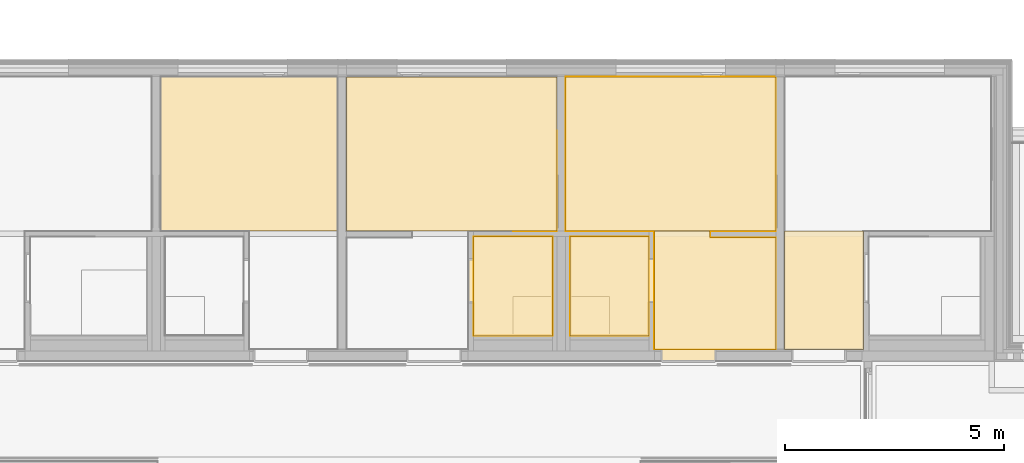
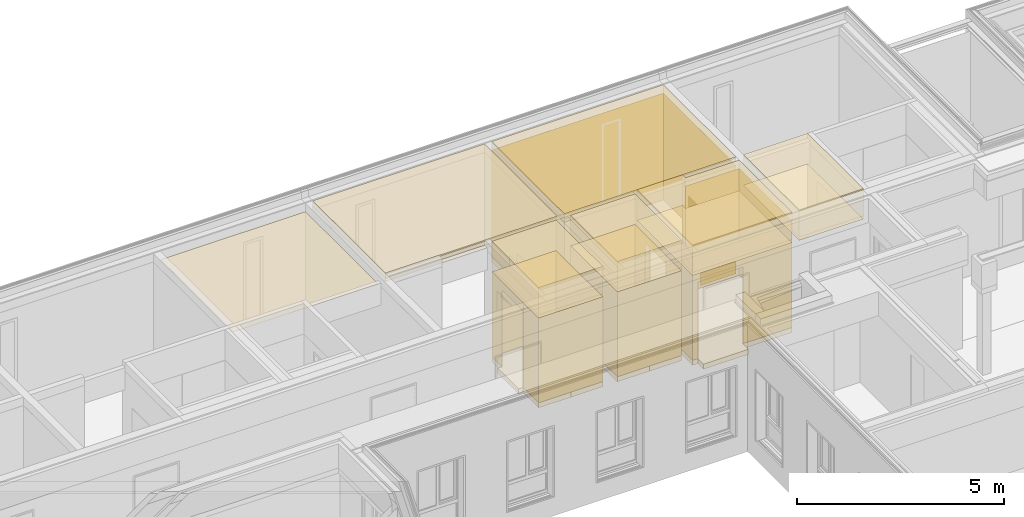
# One storey, part 178 of 222: 37 coverings.
"""IFC4 building model written with IfcOpenShell, lengths in metres."""

import ifcopenshell
import ifcopenshell.guid

model = None  # the IFC model being written
_history = None  # IfcOwnerHistory: only IFC2X3 demands one
_inside = {}  # id of a spatial element -> (the spatial element, [elements in it])
_under = {}  # id of a project, library or spatial element -> (it, [spatial elements below it])
_declared = {}  # id of a project -> (the project, [libraries it declares])
_typed = {}  # id of a type object -> (the type object, [elements of that type])
_made_of = {}  # id of a material, layer set ... -> (it, [elements and type objects made of it])


def new_model(schema):
    """Start an empty IFC model of exactly this schema.

    Asked for "IFC4X3", IfcOpenShell would pick the latest addendum, in which some entities
    have other attributes; the version numbers below select the first issue.
    IFC2X3 requires an IfcOwnerHistory on every rooted entity: one is made here for all.
    """
    global model, _history
    if schema == "IFC4X3":
        model = ifcopenshell.file(schema_version=(4, 3, 0, 0))
    else:
        model = ifcopenshell.file(schema=schema)
    _inside.clear()
    _under.clear()
    _declared.clear()
    _typed.clear()
    _made_of.clear()
    _history = None
    if model.schema == "IFC2X3":
        org = make("IfcOrganization", Name="unknown")
        user = make(
            "IfcPersonAndOrganization",
            ThePerson=make("IfcPerson", FamilyName="unknown"),
            TheOrganization=org,
        )
        app = make(
            "IfcApplication",
            ApplicationDeveloper=org,
            Version="unknown",
            ApplicationFullName="unknown",
            ApplicationIdentifier="unknown",
        )
        _history = make(
            "IfcOwnerHistory",
            OwningUser=user,
            OwningApplication=app,
            ChangeAction="ADDED",
            CreationDate=0,
        )
    return model


def make(cls, **values):
    """One entity of the class cls with the attributes given. An attribute that is None is left unset."""
    return model.create_entity(
        cls, **{name: value for name, value in values.items() if value is not None}
    )


def entity(cls, *values):
    """Any entity or typed value of the class cls, its attributes in the order of the schema. None: left unset."""
    e = model.create_entity(cls)
    for i, value in enumerate(values):
        if value is not None:
            e[i] = value
    return e


def rooted(cls, **values):
    """An entity with a GlobalId (a new one), such as an element, a storey or a relation."""
    return make(cls, GlobalId=ifcopenshell.guid.new(), OwnerHistory=_history, **values)


def si_unit(unit_type, name, prefix=None):
    """IfcSIUnit, for example si_unit("LENGTHUNIT", "METRE", prefix="MILLI")."""
    return make("IfcSIUnit", UnitType=unit_type, Prefix=prefix, Name=name)


def converted_unit(unit_type, name, factor, base, dimensions=None, offset=None):
    """IfcConversionBasedUnit, such as the inch: factor (a typed value) times the base unit."""
    return make(
        "IfcConversionBasedUnit"
        if offset is None
        else "IfcConversionBasedUnitWithOffset",
        ConversionOffset=offset,
        Dimensions=None
        if dimensions is None
        else entity("IfcDimensionalExponents", *dimensions),
        UnitType=unit_type,
        Name=name,
        ConversionFactor=make(
            "IfcMeasureWithUnit", ValueComponent=factor, UnitComponent=base
        ),
    )


def derived_unit(unit_type, elements):
    """IfcDerivedUnit: a product of units, each with its exponent."""
    return make(
        "IfcDerivedUnit",
        Elements=[
            make("IfcDerivedUnitElement", Unit=unit, Exponent=power)
            for unit, power in elements
        ],
        UnitType=unit_type,
    )


def assignment(units):
    """IfcUnitAssignment: the units of a project."""
    return None if units is None else make("IfcUnitAssignment", Units=units)


def point(xyz):
    """IfcCartesianPoint."""
    return None if xyz is None else make("IfcCartesianPoint", Coordinates=xyz)


def direction(xyz):
    """IfcDirection."""
    return None if xyz is None else make("IfcDirection", DirectionRatios=xyz)


def frame(location, z_axis=None, x_axis=None):
    """IfcAxis2Placement3D, a coordinate frame: its origin and axes. An axis left out is left unset."""
    return make(
        "IfcAxis2Placement3D",
        Location=point(location),
        Axis=direction(z_axis),
        RefDirection=direction(x_axis),
    )


def frame_2d(location, x_axis=None):
    """IfcAxis2Placement2D, a coordinate frame in the plane: its origin and x axis."""
    return make(
        "IfcAxis2Placement2D", Location=point(location), RefDirection=direction(x_axis)
    )


def origin():
    """The frame at (0, 0, 0) with its axes left unset."""
    return frame((0.0, 0.0, 0.0))


def origin_with_axes():
    """The frame at (0, 0, 0) with the z axis (0, 0, 1) and the x axis (1, 0, 0) written out."""
    return frame((0.0, 0.0, 0.0), z_axis=(0.0, 0.0, 1.0), x_axis=(1.0, 0.0, 0.0))


def place(relative_to, where):
    """IfcLocalPlacement: puts the frame where relative to a parent placement (None: the world)."""
    return make(
        "IfcLocalPlacement", PlacementRelTo=relative_to, RelativePlacement=where
    )


def context(
    kind, dimensions, precision=None, world=None, true_north=None, identifier=None
):
    """IfcGeometricRepresentationContext, for example the 3D "Model" context."""
    return make(
        "IfcGeometricRepresentationContext",
        ContextIdentifier=identifier,
        ContextType=kind,
        CoordinateSpaceDimension=dimensions,
        Precision=precision,
        WorldCoordinateSystem=world,
        TrueNorth=true_north,
    )


def subcontext(parent, identifier, kind, view, scale=None):
    """IfcGeometricRepresentationSubContext, for example "Body" below "Model"."""
    return make(
        "IfcGeometricRepresentationSubContext",
        ContextIdentifier=identifier,
        ContextType=kind,
        ParentContext=parent,
        TargetScale=scale,
        TargetView=view,
    )


def project(units=None, contexts=None):
    """IfcProject with its units and contexts."""
    return rooted(
        "IfcProject",
        Name="project",
        RepresentationContexts=contexts,
        UnitsInContext=assignment(units),
    )


def spatial(cls, under=None, at=None, **own):
    """A site, building, storey or space (cls), placed at a placement, below another one or the project."""
    s = rooted(cls, ObjectPlacement=at, **own)
    if under is not None:
        _under.setdefault(under.id(), (under, []))[1].append(s)
    return s


def polyline(points):
    """IfcPolyline through the points."""
    return make("IfcPolyline", Points=[point(p) for p in points])


def profile(cls, at=None, kind="AREA", **sizes):
    """A parametric profile (cls). Its sizes go by their IFC names, for example OverallWidth=200.0."""
    return make(cls, ProfileType=kind, Position=at, **sizes)


def rectangle(**sizes):
    """IfcRectangleProfileDef."""
    return profile("IfcRectangleProfileDef", **sizes)


def outline(outer, holes=None, kind="AREA"):
    """IfcArbitraryClosedProfileDef: a profile drawn as a closed curve; with holes, ...WithVoids."""
    if holes is None:
        return make("IfcArbitraryClosedProfileDef", ProfileType=kind, OuterCurve=outer)
    return make(
        "IfcArbitraryProfileDefWithVoids",
        ProfileType=kind,
        OuterCurve=outer,
        InnerCurves=holes,
    )


def extrude(swept, where, along, depth):
    """IfcExtrudedAreaSolid: the profile swept, set in the frame where, extruded along a direction by depth."""
    return make(
        "IfcExtrudedAreaSolid",
        SweptArea=swept,
        Position=where,
        ExtrudedDirection=direction(along),
        Depth=depth,
    )


def shape(context_of_items, identifier, shape_type, items):
    """IfcShapeRepresentation: the items that make up one representation, for example the "Body"."""
    return make(
        "IfcShapeRepresentation",
        ContextOfItems=context_of_items,
        RepresentationIdentifier=identifier,
        RepresentationType=shape_type,
        Items=items,
    )


def material(Name=None, Category=None):
    """IfcMaterial."""
    return make("IfcMaterial", Name=Name, Category=Category)


def layer(
    of_material, thickness, ventilated=None, Name=None, Category=None, Priority=None
):
    """IfcMaterialLayer: one layer of a wall or slab, of a material (None: an air gap)."""
    return make(
        "IfcMaterialLayer",
        Material=of_material,
        LayerThickness=thickness,
        IsVentilated=ventilated,
        Name=Name,
        Category=Category,
        Priority=Priority,
    )


def layer_set(layers, Name=None):
    """IfcMaterialLayerSet."""
    return make("IfcMaterialLayerSet", MaterialLayers=layers, LayerSetName=Name)


def layer_usage(for_layer_set, set_direction, sense, offset, extent=None):
    """IfcMaterialLayerSetUsage: how a layer set lies in its element."""
    return make(
        "IfcMaterialLayerSetUsage",
        ForLayerSet=for_layer_set,
        LayerSetDirection=set_direction,
        DirectionSense=sense,
        OffsetFromReferenceLine=offset,
        ReferenceExtent=extent,
    )


def made_of(thing, what):
    """Note that an element or type object is made of a material, layer set ...; save() writes the relation."""
    if what is not None:
        _made_of.setdefault(what.id(), (what, []))[1].append(thing)
    return thing


def element(
    cls,
    number,
    at=None,
    inside=None,
    cuts=None,
    type_object=None,
    material=None,
    context=None,
    identifier="Body",
    shape_type=None,
    held_by="IfcProductDefinitionShape",
    body=None,
    shapes=None,
    **own,
):
    """One element of the class cls, such as IfcWall. Its Tag is "e" and its number.

    at: its placement. inside: the storey or other place that contains it. cuts: it is an
    opening in that element (IfcRelVoidsElement). A single representation is given by context,
    identifier, shape_type and body (its items); several are given by shapes. held_by: the class
    of the entity that holds the representations. save() writes the other relations.
    """
    e = rooted(cls, Tag="e%d" % number, ObjectPlacement=at, **own)
    if body is not None:
        shapes = [shape(context, identifier, shape_type, body)]
    if shapes is not None:
        e.Representation = make(held_by, Representations=shapes)
    if inside is not None:
        _inside.setdefault(inside.id(), (inside, []))[1].append(e)
    if cuts is not None:
        rooted(
            "IfcRelVoidsElement", RelatingBuildingElement=cuts, RelatedOpeningElement=e
        )
    if type_object is not None:
        _typed.setdefault(type_object.id(), (type_object, []))[1].append(e)
    return made_of(e, material)


def aggregate(whole, parts):
    """IfcRelAggregates: a whole, such as a stair, and the parts it consists of."""
    return rooted("IfcRelAggregates", RelatingObject=whole, RelatedObjects=parts)


def save(model, path):
    """Write the relations noted so far, then the file.

    IfcRelAggregates (storeys below a building ...), IfcRelContainedInSpatialStructure (elements
    in a storey), IfcRelDefinesByType, IfcRelAssociatesMaterial and IfcRelDeclares: one each for
    every whole, place, type object, material and project.
    """
    for whole, parts in _under.values():
        aggregate(whole, parts)
    for where, things in _inside.values():
        rooted(
            "IfcRelContainedInSpatialStructure",
            RelatedElements=things,
            RelatingStructure=where,
        )
    for kind, things in _typed.values():
        rooted("IfcRelDefinesByType", RelatedObjects=things, RelatingType=kind)
    for what, things in _made_of.values():
        rooted("IfcRelAssociatesMaterial", RelatedObjects=things, RelatingMaterial=what)
    for by, libraries in _declared.values():
        rooted("IfcRelDeclares", RelatingContext=by, RelatedDefinitions=libraries)
    model.write(path)


model = new_model("IFC4")

# Units and contexts
model_context = context("Model", 3, precision=1e-05, world=origin())
body_context = subcontext(model_context, "Body", "Model", "MODEL_VIEW")
ifc_project = project(units=[si_unit("LENGTHUNIT", "METRE"), si_unit("AREAUNIT", "SQUARE_METRE"), si_unit("VOLUMEUNIT", "CUBIC_METRE"), si_unit("MASSUNIT", "GRAM", prefix="KILO"), converted_unit("PLANEANGLEUNIT", "DEGREE", entity("IfcPlaneAngleMeasure", 0.0174532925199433), si_unit("PLANEANGLEUNIT", "RADIAN"), dimensions=[0, 0, 0, 0, 0, 0, 0]), derived_unit("THERMALTRANSMITTANCEUNIT", [(si_unit("POWERUNIT", "WATT"), 1), (si_unit("THERMODYNAMICTEMPERATUREUNIT", "KELVIN"), -1), (si_unit("LENGTHUNIT", "METRE"), -2)]), derived_unit("VOLUMETRICFLOWRATEUNIT", [(si_unit("LENGTHUNIT", "METRE"), 3), (converted_unit("TIMEUNIT", "hour", entity("IfcTimeMeasure", 3600.0), si_unit("TIMEUNIT", "SECOND"), dimensions=[0, 0, 1, 0, 0, 0, 0]), -1), (si_unit("LENGTHUNIT", "METRE"), -1)])], contexts=[model_context])

# Site, building, storey, space
site_placement = place(None, origin())
site = spatial("IfcSite", under=ifc_project, at=site_placement, Name="Psychiatrie Neubau Wunstorf", CompositionType="ELEMENT")
building_placement = place(site_placement, origin())
building = spatial("IfcBuilding", under=site, at=building_placement, Name="Neubau H2 Stationsgebäude", CompositionType="ELEMENT")
storey_placement = place(building_placement, frame((0.0, 0.0, 3.6)))
storey = spatial("IfcBuildingStorey", under=building, at=storey_placement, Name="H2 Ebene +1", CompositionType="ELEMENT", Elevation=3.6)
space_1_placement = place(storey_placement, frame((30.1, 24.3895, 0.0)))
space_1 = spatial("IfcSpace", under=storey, at=space_1_placement, Name="WUN-H2-E01-047", CompositionType="ELEMENT")

# Coverings
ifc_material_1 = material()
ifc_layer_1 = layer(ifc_material_1, 0.036)
ifc_layer_set_1 = layer_set([ifc_layer_1])
ifc_layer_usage_1 = layer_usage(ifc_layer_set_1, "AXIS3", "POSITIVE", 0.0)
covering_1_placement = place(space_1_placement, frame((0.0, 0.0, 3.55)))
element("IfcCovering", 1, at=covering_1_placement, inside=space_1, material=ifc_layer_usage_1, Name="Gipsfaserplatten 2-lagig (BSK)", PredefinedType="CEILING", context=body_context, shape_type="SweptSolid", body=[
    extrude(rectangle(XDim=1.798, YDim=2.70000000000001, at=frame_2d((0.899000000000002, 1.35), x_axis=(1.0, 0.0))), frame((0.0, 2.70000000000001, 0.0), z_axis=(0.0, 0.0, -1.0), x_axis=(1.0, 0.0, 0.0)), (0.0, 0.0, 1.0), 0.036),
])
ifc_material_2 = material(Name="Installationshöhe")
ifc_layer_2 = layer(ifc_material_2, 0.764)
ifc_layer_set_2 = layer_set([ifc_layer_2])
ifc_layer_usage_2 = layer_usage(ifc_layer_set_2, "AXIS3", "POSITIVE", 0.0)
covering_2_placement = place(space_1_placement, frame((0.0, 0.0, 3.514)))
element("IfcCovering", 2, at=covering_2_placement, inside=space_1, material=ifc_layer_usage_2, Name="Gipsfaserplatten 2-lagig (BSK)", PredefinedType="CEILING", context=body_context, shape_type="SweptSolid", body=[
    extrude(rectangle(XDim=1.798, YDim=2.70000000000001, at=frame_2d((0.899000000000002, 1.35), x_axis=(1.0, 0.0))), frame((0.0, 2.70000000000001, 0.0), z_axis=(0.0, 0.0, -1.0), x_axis=(1.0, 0.0, 0.0)), (0.0, 0.0, 1.0), 0.764),
])
ifc_material_3 = material(Name="A1")
ifc_layer_3 = layer(ifc_material_3, 0.1)
ifc_layer_set_3 = layer_set([ifc_layer_3])
ifc_layer_usage_3 = layer_usage(ifc_layer_set_3, "AXIS3", "POSITIVE", 0.0)
covering_3_placement = place(space_1_placement, frame((0.0, 0.0, 2.75)))
element("IfcCovering", 3, at=covering_3_placement, inside=space_1, material=ifc_layer_usage_3, Name="Gipsfaserplatten 2-lagig (BSK)", PredefinedType="CEILING", context=body_context, shape_type="SweptSolid", body=[
    extrude(rectangle(XDim=1.798, YDim=2.70000000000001, at=frame_2d((0.899000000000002, 1.35), x_axis=(1.0, 0.0))), frame((0.0, 2.70000000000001, 0.0), z_axis=(0.0, 0.0, -1.0), x_axis=(1.0, 0.0, 0.0)), (0.0, 0.0, 1.0), 0.1),
])
ifc_material_4 = material(Name="D1")
ifc_layer_4 = layer(ifc_material_4, 0.001)
ifc_layer_set_4 = layer_set([ifc_layer_4])
ifc_layer_usage_4 = layer_usage(ifc_layer_set_4, "AXIS3", "POSITIVE", 0.0)
covering_4_placement = place(space_1_placement, frame((0.0, 0.0, 2.65)))
element("IfcCovering", 4, at=covering_4_placement, inside=space_1, material=ifc_layer_usage_4, Name="Gipsfaserplatten 2-lagig (BSK)", PredefinedType="CEILING", context=body_context, shape_type="SweptSolid", body=[
    extrude(rectangle(XDim=1.798, YDim=2.70000000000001, at=frame_2d((0.899000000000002, 1.35), x_axis=(1.0, 0.0))), frame((0.0, 2.70000000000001, 0.0), z_axis=(0.0, 0.0, -1.0), x_axis=(1.0, 0.0, 0.0)), (0.0, 0.0, 1.0), 0.001),
])

# Space
space_2_placement = place(storey_placement, frame((25.1, 24.3895, 0.0)))
space_2 = spatial("IfcSpace", under=storey, at=space_2_placement, Name="WUN-H2-E01-046", CompositionType="ELEMENT")

# Coverings
ifc_material_5 = material(Name="84")
ifc_layer_5 = layer(ifc_material_5, 0.001)
ifc_layer_set_5 = layer_set([ifc_layer_5])
ifc_layer_usage_5 = layer_usage(ifc_layer_set_5, "AXIS3", "POSITIVE", 0.0)
covering_5_placement = place(space_2_placement, frame((0.0, 2.70000000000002, 0.1)))
element("IfcCovering", 5, at=covering_5_placement, inside=space_2, material=ifc_layer_usage_5, Name="Acrovyn", PredefinedType="CLADDING", context=body_context, shape_type="SweptSolid", body=[
    extrude(rectangle(XDim=0.9, YDim=1.0, at=frame_2d((-0.5, -0.45), x_axis=(0.0, -1.0))), frame((1.0, 0.0, 0.0), z_axis=(0.0, 1.0, 0.0), x_axis=(1.0, 0.0, 0.0)), (0.0, 0.0, 1.0), 0.001),
    extrude(rectangle(XDim=0.9, YDim=2.29650366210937, at=frame_2d((-1.14825183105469, -0.45), x_axis=(0.0, -1.0))), frame((0.0, 0.0, 0.0), z_axis=(1.0, 9.50482823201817e-15, 0.0), x_axis=(9.50482823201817e-15, -1.0, 0.0)), (0.0, 0.0, 1.0), 0.001),
])
ifc_material_6 = material(Name="84")
ifc_layer_6 = layer(ifc_material_6, 0.001)
ifc_layer_set_6 = layer_set([ifc_layer_6])
ifc_layer_usage_6 = layer_usage(ifc_layer_set_6, "AXIS3", "POSITIVE", 0.0)
covering_6_placement = place(space_2_placement, frame((3.80000000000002, 2.70000000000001, 0.1)))
element("IfcCovering", 6, at=covering_6_placement, inside=space_2, material=ifc_layer_usage_6, Name="Acrovyn", PredefinedType="CLADDING", context=body_context, shape_type="SweptSolid", body=[
    extrude(rectangle(XDim=1.0, YDim=0.9, at=frame_2d((0.5, -0.45), x_axis=(1.0, 0.0))), frame((0.0, 0.0, 0.0), z_axis=(0.0, 1.0, 0.0), x_axis=(1.0, 0.0, 0.0)), (0.0, 0.0, 1.0), 0.001),
    extrude(rectangle(XDim=2.29650366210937, YDim=0.9, at=frame_2d((1.14825183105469, -0.45), x_axis=(1.0, 0.0))), frame((1.0, 0.0, 0.0), z_axis=(-1.0, -9.50482823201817e-15, 0.0), x_axis=(-9.50482823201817e-15, 1.0, 0.0)), (0.0, 0.0, 1.0), 0.001),
])
ifc_material_7 = material()
ifc_layer_7 = layer(ifc_material_7, 0.036)
ifc_layer_set_7 = layer_set([ifc_layer_7])
ifc_layer_usage_7 = layer_usage(ifc_layer_set_7, "AXIS3", "POSITIVE", 0.0)
covering_7_placement = place(space_2_placement, frame((2.02500000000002, 0.0, 3.55)))
element("IfcCovering", 7, at=covering_7_placement, inside=space_2, material=ifc_layer_usage_7, Name="Gipsfaserplatten 2-lagig (BSK)", PredefinedType="CEILING", context=body_context, shape_type="SweptSolid", body=[
    extrude(outline(polyline([(0.0, 0.0), (1.27499999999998, 0.0), (1.27499999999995, 0.150000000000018), (2.77499999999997, 0.150000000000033), (2.77499999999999, 2.70000000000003), (0.0, 2.70000000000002), (0.0, 0.0)])), frame((0.0, 2.70000000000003, 0.0), z_axis=(0.0, 0.0, -1.0), x_axis=(1.0, 0.0, 0.0)), (0.0, 0.0, 1.0), 0.036),
])
ifc_material_8 = material(Name="Installationshöhe")
ifc_layer_8 = layer(ifc_material_8, 0.764)
ifc_layer_set_8 = layer_set([ifc_layer_8])
ifc_layer_usage_8 = layer_usage(ifc_layer_set_8, "AXIS3", "POSITIVE", 0.0)
covering_8_placement = place(space_2_placement, frame((2.02500000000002, 0.0, 3.514)))
element("IfcCovering", 8, at=covering_8_placement, inside=space_2, material=ifc_layer_usage_8, Name="Gipsfaserplatten 2-lagig (BSK)", PredefinedType="CEILING", context=body_context, shape_type="SweptSolid", body=[
    extrude(outline(polyline([(0.0, 0.0), (1.27499999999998, 0.0), (1.27499999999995, 0.150000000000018), (2.77499999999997, 0.150000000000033), (2.77499999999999, 2.70000000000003), (0.0, 2.70000000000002), (0.0, 0.0)])), frame((0.0, 2.70000000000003, 0.0), z_axis=(0.0, 0.0, -1.0), x_axis=(1.0, 0.0, 0.0)), (0.0, 0.0, 1.0), 0.764),
])
ifc_material_9 = material(Name="A1")
ifc_layer_9 = layer(ifc_material_9, 0.1)
ifc_layer_set_9 = layer_set([ifc_layer_9])
ifc_layer_usage_9 = layer_usage(ifc_layer_set_9, "AXIS3", "POSITIVE", 0.0)
covering_9_placement = place(space_2_placement, frame((2.02500000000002, 0.0, 2.75)))
element("IfcCovering", 9, at=covering_9_placement, inside=space_2, material=ifc_layer_usage_9, Name="Gipsfaserplatten 2-lagig (BSK)", PredefinedType="CEILING", context=body_context, shape_type="SweptSolid", body=[
    extrude(outline(polyline([(0.0, 0.0), (1.27499999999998, 0.0), (1.27499999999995, 0.150000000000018), (2.77499999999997, 0.150000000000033), (2.77499999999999, 2.70000000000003), (0.0, 2.70000000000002), (0.0, 0.0)])), frame((0.0, 2.70000000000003, 0.0), z_axis=(0.0, 0.0, -1.0), x_axis=(1.0, 0.0, 0.0)), (0.0, 0.0, 1.0), 0.1),
])
ifc_material_10 = material(Name="D1")
ifc_layer_10 = layer(ifc_material_10, 0.001)
ifc_layer_set_10 = layer_set([ifc_layer_10])
ifc_layer_usage_10 = layer_usage(ifc_layer_set_10, "AXIS3", "POSITIVE", 0.0)
covering_10_placement = place(space_2_placement, frame((2.02500000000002, 0.0, 2.65)))
element("IfcCovering", 10, at=covering_10_placement, inside=space_2, material=ifc_layer_usage_10, Name="Gipsfaserplatten 2-lagig (BSK)", PredefinedType="CEILING", context=body_context, shape_type="SweptSolid", body=[
    extrude(outline(polyline([(0.0, 0.0), (1.27499999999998, 0.0), (1.27499999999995, 0.150000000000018), (2.77499999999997, 0.150000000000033), (2.77499999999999, 2.70000000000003), (0.0, 2.70000000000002), (0.0, 0.0)])), frame((0.0, 2.70000000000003, 0.0), z_axis=(0.0, 0.0, -1.0), x_axis=(1.0, 0.0, 0.0)), (0.0, 0.0, 1.0), 0.001),
])
ifc_material_11 = material(Name="Ku1")
ifc_layer_11 = layer(ifc_material_11, 0.15)
ifc_layer_set_11 = layer_set([ifc_layer_11])
ifc_layer_usage_11 = layer_usage(ifc_layer_set_11, "AXIS3", "POSITIVE", 0.0)
covering_11_placement = place(space_2_placement, frame((0.0, -0.271999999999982, 0.0)))
element("IfcCovering", 11, at=covering_11_placement, inside=space_2, material=ifc_layer_usage_11, Name="PVC Bahnenware Holzoptik", PredefinedType="FLOORING", context=body_context, shape_type="SweptSolid", body=[
    extrude(rectangle(XDim=0.271999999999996, YDim=1.26, at=frame_2d((0.63, -0.135999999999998), x_axis=(0.0, -1.0))), frame((2.17500000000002, 0.271999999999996, 0.0), z_axis=(0.0, 0.0, 1.0), x_axis=(1.0, 0.0, 0.0)), (0.0, 0.0, 1.0), 0.15),
    extrude(outline(polyline([(2.02500000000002, 2.70000000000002), (2.02500000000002, 0.0), (4.80000000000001, 0.0), (4.79999999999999, 2.55), (3.29999999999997, 2.55000000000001), (3.3, 2.70000000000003), (4.80000000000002, 2.70000000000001), (4.79999999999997, 6.22100366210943), (0.0, 6.22100366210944), (0.0, 2.70000000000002), (2.02500000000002, 2.70000000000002)])), frame((0.0, 0.271999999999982, 0.0), z_axis=(0.0, 0.0, 1.0), x_axis=(1.0, 0.0, 0.0)), (0.0, 0.0, 1.0), 0.15),
])
ifc_material_12 = material()
ifc_layer_12 = layer(ifc_material_12, 0.036)
ifc_layer_set_12 = layer_set([ifc_layer_12])
ifc_layer_usage_12 = layer_usage(ifc_layer_set_12, "AXIS3", "POSITIVE", 0.0)
covering_12_placement = place(space_2_placement, frame((0.0, 2.70000000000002, 3.55)))
element("IfcCovering", 12, at=covering_12_placement, inside=space_2, material=ifc_layer_usage_12, Name="Gipsfaserplatten 2-lagig (BSK)", PredefinedType="CEILING", context=body_context, shape_type="SweptSolid", body=[
    extrude(rectangle(XDim=3.52100366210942, YDim=4.79999999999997, at=frame_2d((2.39999999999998, -1.7605018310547), x_axis=(-5.16611051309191e-15, -1.0))), frame((0.0, 0.0, 0.0), z_axis=(0.0, 0.0, -1.0), x_axis=(1.0, 0.0, 0.0)), (0.0, 0.0, 1.0), 0.036),
])
ifc_material_13 = material(Name="Installationshöhe")
ifc_layer_13 = layer(ifc_material_13, 0.114)
ifc_layer_set_13 = layer_set([ifc_layer_13])
ifc_layer_usage_13 = layer_usage(ifc_layer_set_13, "AXIS3", "POSITIVE", 0.0)
covering_13_placement = place(space_2_placement, frame((0.0, 2.70000000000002, 3.514)))
element("IfcCovering", 13, at=covering_13_placement, inside=space_2, material=ifc_layer_usage_13, Name="Gipsfaserplatten 2-lagig (BSK)", PredefinedType="CEILING", context=body_context, shape_type="SweptSolid", body=[
    extrude(rectangle(XDim=3.52100366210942, YDim=4.79999999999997, at=frame_2d((2.39999999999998, -1.7605018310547), x_axis=(-5.16611051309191e-15, -1.0))), frame((0.0, 0.0, 0.0), z_axis=(0.0, 0.0, -1.0), x_axis=(1.0, 0.0, 0.0)), (0.0, 0.0, 1.0), 0.114),
])
ifc_material_14 = material(Name="A1")
ifc_layer_14 = layer(ifc_material_14, 0.1)
ifc_layer_set_14 = layer_set([ifc_layer_14])
ifc_layer_usage_14 = layer_usage(ifc_layer_set_14, "AXIS3", "POSITIVE", 0.0)
covering_14_placement = place(space_2_placement, frame((0.0, 2.70000000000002, 3.4)))
element("IfcCovering", 14, at=covering_14_placement, inside=space_2, material=ifc_layer_usage_14, Name="Gipsfaserplatten 2-lagig (BSK)", PredefinedType="CEILING", context=body_context, shape_type="SweptSolid", body=[
    extrude(rectangle(XDim=3.52100366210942, YDim=4.79999999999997, at=frame_2d((2.39999999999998, -1.7605018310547), x_axis=(-5.16611051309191e-15, -1.0))), frame((0.0, 0.0, 0.0), z_axis=(0.0, 0.0, -1.0), x_axis=(1.0, 0.0, 0.0)), (0.0, 0.0, 1.0), 0.1),
])
ifc_material_15 = material(Name="49")
ifc_layer_15 = layer(ifc_material_15, 0.001)
ifc_layer_set_15 = layer_set([ifc_layer_15])
ifc_layer_usage_15 = layer_usage(ifc_layer_set_15, "AXIS3", "POSITIVE", 0.0)
covering_15_placement = place(space_2_placement, frame((0.0, 0.0, 0.15)))
element("IfcCovering", 15, at=covering_15_placement, inside=space_2, material=ifc_layer_usage_15, PredefinedType="CLADDING", context=body_context, shape_type="SweptSolid", body=[
    extrude(outline(polyline([(0.0, 3.15), (1.22450000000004, 3.15), (1.22450000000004, 2.3), (3.52100366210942, 2.3), (3.52100366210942, 0.0), (0.0, 0.0), (0.0, 3.15)])), frame((0.0, 6.22100366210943, 3.15), z_axis=(1.0, 5.36477434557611e-15, -1.17938351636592e-15), x_axis=(5.36477434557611e-15, -1.0, 0.0)), (0.0, 0.0, 1.0), 0.001),
    extrude(outline(polyline([(1.0, 3.15), (2.025, 3.15), (2.025, 0.0), (0.0, 0.0), (0.0, 2.3), (1.0, 2.3), (1.0, 3.15)])), frame((0.0, 2.70000000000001, 3.15), z_axis=(0.0, 1.0, 0.0), x_axis=(1.0, 0.0, 0.0)), (0.0, 0.0, 1.0), 0.001),
    extrude(outline(polyline([(0.0, 3.15), (0.625000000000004, 3.15), (0.625000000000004, 0.89), (1.635, 0.89), (1.635, 3.15), (2.70000000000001, 3.15), (2.70000000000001, 0.0), (0.0, 0.0), (0.0, 3.15)])), frame((2.02500000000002, 2.70000000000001, 3.15), z_axis=(1.0, 0.0, 0.0), x_axis=(0.0, -1.0, 0.0)), (0.0, 0.0, 1.0), 0.001),
    extrude(outline(polyline([(0.0, 3.15), (0.15, 3.15), (0.15, 0.89), (1.41, 0.89), (1.41, 3.15), (2.77499999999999, 3.15), (2.77499999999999, 0.0), (0.0, 0.0), (0.0, 3.15)])), frame((2.02500000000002, 0.0, 3.15), z_axis=(2.23677159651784e-15, 1.0, -7.79787712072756e-16), x_axis=(1.0, -2.23677159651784e-15, 0.0)), (0.0, 0.0, 1.0), 0.001),
    extrude(rectangle(XDim=2.55, YDim=3.15, at=frame_2d((1.275, -1.575), x_axis=(1.0, 0.0))), frame((4.80000000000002, 0.0, 0.0), z_axis=(-1.0, -9.9866084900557e-15, 0.0), x_axis=(-9.9866084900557e-15, 1.0, 0.0)), (0.0, 0.0, 1.0), 0.001),
    extrude(rectangle(XDim=1.50000000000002, YDim=3.15, at=frame_2d((0.750000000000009, -1.575), x_axis=(1.0, 0.0))), frame((4.79999999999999, 2.54999999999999, 0.0), z_axis=(-9.70127681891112e-15, -1.0, 0.0), x_axis=(-1.0, 9.70127681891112e-15, 0.0)), (0.0, 0.0, 1.0), 0.001),
    extrude(rectangle(XDim=0.150000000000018, YDim=3.15, at=frame_2d((0.0750000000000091, -1.575), x_axis=(1.0, 0.0))), frame((3.29999999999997, 2.55, 0.0), z_axis=(-1.0, 2.18278728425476e-13, 0.0), x_axis=(2.18278728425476e-13, 1.0, 0.0)), (0.0, 0.0, 1.0), 0.001),
    extrude(outline(polyline([(0.0, 3.15), (0.500000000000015, 3.15), (0.500000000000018, 2.3), (1.50000000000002, 2.3), (1.50000000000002, 0.0), (0.0, 0.0), (0.0, 3.15)])), frame((3.3, 2.70000000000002, 3.15), z_axis=(7.35143435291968e-15, 1.0, -1.66048825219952e-15), x_axis=(1.0, -7.35143435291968e-15, 0.0)), (0.0, 0.0, 1.0), 0.001),
    extrude(outline(polyline([(2.29650366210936, 3.15), (3.52100366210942, 3.15), (3.52100366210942, 0.0), (0.0, 0.0), (0.0, 2.3), (2.29650366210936, 2.3), (2.29650366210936, 3.15)])), frame((4.80000000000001, 2.70000000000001, 3.15), z_axis=(-1.0, -1.1663809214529e-14, -1.18374593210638e-16), x_axis=(-1.1663809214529e-14, 1.0, 0.0)), (0.0, 0.0, 1.0), 0.001),
    extrude(rectangle(XDim=4.79999999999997, YDim=3.15, at=frame_2d((2.39999999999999, -1.575), x_axis=(1.0, 0.0))), frame((4.79999999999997, 6.22100366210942, 0.0), z_axis=(-1.51582450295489e-15, -1.0, 0.0), x_axis=(-1.0, 1.51582450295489e-15, 0.0)), (0.0, 0.0, 1.0), 0.001),
])

# Space
space_3_placement = place(storey_placement, frame((20.1, 24.3895, 0.0)))
space_3 = spatial("IfcSpace", under=storey, at=space_3_placement, Name="WUN-H2-E01-045", CompositionType="ELEMENT")

# Coverings
ifc_material_16 = material(Name="84")
ifc_layer_16 = layer(ifc_material_16, 0.001)
ifc_layer_set_16 = layer_set([ifc_layer_16])
ifc_layer_usage_16 = layer_usage(ifc_layer_set_16, "AXIS3", "POSITIVE", 0.0)
covering_16_placement = place(space_3_placement, frame((3.80000000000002, 2.7, 0.1)))
element("IfcCovering", 16, at=covering_16_placement, inside=space_3, material=ifc_layer_usage_16, Name="Acrovyn", PredefinedType="CLADDING", context=body_context, shape_type="SweptSolid", body=[
    extrude(rectangle(XDim=1.0, YDim=0.9, at=frame_2d((0.5, -0.45), x_axis=(1.0, 0.0))), frame((0.0, 0.0, 0.0), z_axis=(0.0, 1.0, 0.0), x_axis=(1.0, 0.0, 0.0)), (0.0, 0.0, 1.0), 0.001),
    extrude(rectangle(XDim=2.29650366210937, YDim=0.9, at=frame_2d((1.14825183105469, -0.45), x_axis=(1.0, 0.0))), frame((1.0, 0.0, 0.0), z_axis=(-1.0, -9.50482823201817e-15, 0.0), x_axis=(-9.50482823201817e-15, 1.0, 0.0)), (0.0, 0.0, 1.0), 0.001),
])
ifc_material_17 = material()
ifc_layer_17 = layer(ifc_material_17, 0.036)
ifc_layer_set_17 = layer_set([ifc_layer_17])
ifc_layer_usage_17 = layer_usage(ifc_layer_set_17, "AXIS3", "POSITIVE", 0.0)
covering_17_placement = place(space_3_placement, frame((0.0, 2.7, 3.55)))
element("IfcCovering", 17, at=covering_17_placement, inside=space_3, material=ifc_layer_usage_17, Name="Gipsfaserplatten 2-lagig (BSK)", PredefinedType="CEILING", context=body_context, shape_type="SweptSolid", body=[
    extrude(rectangle(XDim=3.5210036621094, YDim=4.8, at=frame_2d((2.39999999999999, -1.7605018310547), x_axis=(-6.19933261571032e-15, -1.0))), frame((0.0, 0.0, 0.0), z_axis=(0.0, 0.0, -1.0), x_axis=(1.0, 0.0, 0.0)), (0.0, 0.0, 1.0), 0.036),
])
ifc_material_18 = material(Name="Installationshöhe")
ifc_layer_18 = layer(ifc_material_18, 0.114)
ifc_layer_set_18 = layer_set([ifc_layer_18])
ifc_layer_usage_18 = layer_usage(ifc_layer_set_18, "AXIS3", "POSITIVE", 0.0)
covering_18_placement = place(space_3_placement, frame((0.0, 2.7, 3.514)))
element("IfcCovering", 18, at=covering_18_placement, inside=space_3, material=ifc_layer_usage_18, Name="Gipsfaserplatten 2-lagig (BSK)", PredefinedType="CEILING", context=body_context, shape_type="SweptSolid", body=[
    extrude(rectangle(XDim=3.5210036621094, YDim=4.8, at=frame_2d((2.39999999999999, -1.7605018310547), x_axis=(-6.19933261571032e-15, -1.0))), frame((0.0, 0.0, 0.0), z_axis=(0.0, 0.0, -1.0), x_axis=(1.0, 0.0, 0.0)), (0.0, 0.0, 1.0), 0.114),
])
ifc_material_19 = material(Name="A1")
ifc_layer_19 = layer(ifc_material_19, 0.1)
ifc_layer_set_19 = layer_set([ifc_layer_19])
ifc_layer_usage_19 = layer_usage(ifc_layer_set_19, "AXIS3", "POSITIVE", 0.0)
covering_19_placement = place(space_3_placement, frame((0.0, 2.7, 3.4)))
element("IfcCovering", 19, at=covering_19_placement, inside=space_3, material=ifc_layer_usage_19, Name="Gipsfaserplatten 2-lagig (BSK)", PredefinedType="CEILING", context=body_context, shape_type="SweptSolid", body=[
    extrude(rectangle(XDim=3.5210036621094, YDim=4.8, at=frame_2d((2.39999999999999, -1.7605018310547), x_axis=(-6.19933261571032e-15, -1.0))), frame((0.0, 0.0, 0.0), z_axis=(0.0, 0.0, -1.0), x_axis=(1.0, 0.0, 0.0)), (0.0, 0.0, 1.0), 0.1),
])
ifc_material_20 = material(Name="D1")
ifc_layer_20 = layer(ifc_material_20, 0.001)
ifc_layer_set_20 = layer_set([ifc_layer_20])
ifc_layer_usage_20 = layer_usage(ifc_layer_set_20, "AXIS3", "POSITIVE", 0.0)
covering_20_placement = place(space_3_placement, frame((0.0, 2.7, 3.3)))
element("IfcCovering", 20, at=covering_20_placement, inside=space_3, material=ifc_layer_usage_20, Name="Gipsfaserplatten 2-lagig (BSK)", PredefinedType="CEILING", context=body_context, shape_type="SweptSolid", body=[
    extrude(rectangle(XDim=3.5210036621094, YDim=4.8, at=frame_2d((2.39999999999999, -1.7605018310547), x_axis=(-6.19933261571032e-15, -1.0))), frame((0.0, 0.0, 0.0), z_axis=(0.0, 0.0, -1.0), x_axis=(1.0, 0.0, 0.0)), (0.0, 0.0, 1.0), 0.001),
])

# Space
space_4_placement = place(storey_placement, frame((15.85, 24.3895, 0.0)))
space_4 = spatial("IfcSpace", under=storey, at=space_4_placement, Name="WUN-H2-E01-044", CompositionType="ELEMENT")

# Covering
ifc_material_21 = material(Name="D1")
ifc_layer_21 = layer(ifc_material_21, 0.001)
ifc_layer_set_21 = layer_set([ifc_layer_21])
ifc_layer_usage_21 = layer_usage(ifc_layer_set_21, "AXIS3", "POSITIVE", 0.0)
covering_21_placement = place(space_4_placement, frame((0.0, 2.70000000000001, 3.3)))
element("IfcCovering", 21, at=covering_21_placement, inside=space_4, material=ifc_layer_usage_21, Name="Gipsfaserplatten 2-lagig (BSK)", PredefinedType="CEILING", context=body_context, shape_type="SweptSolid", body=[
    extrude(rectangle(XDim=4.04999999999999, YDim=3.52100366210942, at=frame_2d((-2.02500000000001, -1.76050183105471), x_axis=(-1.0, 0.0))), frame((4.05000000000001, 0.0, 0.0), z_axis=(0.0, 0.0, -1.0), x_axis=(1.0, 0.0, 0.0)), (0.0, 0.0, 1.0), 0.001),
])

# Space
space_5_placement = place(storey_placement, frame((25.2, 24.6995, 0.0)))
space_5 = spatial("IfcSpace", under=storey, at=space_5_placement, Name="WUN-H2-E01-046a", CompositionType="ELEMENT")

# Coverings
ifc_material_22 = material(Name="Fl2")
ifc_layer_22 = layer(ifc_material_22, 0.15)
ifc_layer_set_22 = layer_set([ifc_layer_22])
ifc_layer_usage_22 = layer_usage(ifc_layer_set_22, "AXIS3", "POSITIVE", 0.0)
covering_22_placement = place(space_5_placement, origin())
element("IfcCovering", 22, at=covering_22_placement, inside=space_5, material=ifc_layer_usage_22, Name="Fliesen Mosaik", PredefinedType="FLOORING", context=body_context, shape_type="SweptSolid", body=[
    extrude(rectangle(XDim=0.9, YDim=0.9, at=frame_2d((0.45, 0.45), x_axis=(1.0, 0.0))), origin_with_axes(), (0.0, 0.0, 1.0), 0.15),
])
ifc_material_23 = material(Name="Fl1")
ifc_layer_23 = layer(ifc_material_23, 0.15)
ifc_layer_set_23 = layer_set([ifc_layer_23])
ifc_layer_usage_23 = layer_usage(ifc_layer_set_23, "AXIS3", "POSITIVE", 0.0)
covering_23_placement = place(space_5_placement, origin())
element("IfcCovering", 23, at=covering_23_placement, inside=space_5, material=ifc_layer_usage_23, Name="Fliesen", PredefinedType="FLOORING", context=body_context, shape_type="SweptSolid", body=[
    extrude(rectangle(XDim=0.125, YDim=1.01, at=frame_2d((-0.0625, -0.505), x_axis=(-1.0, 0.0))), frame((1.925, 1.765, 0.0), z_axis=(0.0, 0.0, 1.0), x_axis=(1.0, 0.0, 0.0)), (0.0, 0.0, 1.0), 0.15),
    extrude(outline(polyline([(0.9, 0.0), (1.8, 0.0), (1.8, 2.265), (0.0, 2.265), (0.0, 0.900000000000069), (0.9, 0.900000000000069), (0.9, 0.0)])), origin_with_axes(), (0.0, 0.0, 1.0), 0.15),
])
ifc_material_24 = material()
ifc_layer_24 = layer(ifc_material_24, 0.036)
ifc_layer_set_24 = layer_set([ifc_layer_24])
ifc_layer_usage_24 = layer_usage(ifc_layer_set_24, "AXIS3", "POSITIVE", 0.0)
covering_24_placement = place(space_5_placement, frame((0.0, 0.0, 3.55)))
element("IfcCovering", 24, at=covering_24_placement, inside=space_5, material=ifc_layer_usage_24, Name="Gipsfaserplatten 2-lagig (BSK)", PredefinedType="CEILING", context=body_context, shape_type="SweptSolid", body=[
    extrude(rectangle(XDim=1.8, YDim=2.265, at=frame_2d((-0.9, -1.1325), x_axis=(-1.0, 0.0))), frame((1.8, 0.0, 0.0), z_axis=(0.0, 0.0, -1.0), x_axis=(1.0, 0.0, 0.0)), (0.0, 0.0, 1.0), 0.036),
])
ifc_material_25 = material(Name="Installationshöhe")
ifc_layer_25 = layer(ifc_material_25, 0.764)
ifc_layer_set_25 = layer_set([ifc_layer_25])
ifc_layer_usage_25 = layer_usage(ifc_layer_set_25, "AXIS3", "POSITIVE", 0.0)
covering_25_placement = place(space_5_placement, frame((0.0, 0.0, 3.514)))
element("IfcCovering", 25, at=covering_25_placement, inside=space_5, material=ifc_layer_usage_25, Name="Gipsfaserplatten 2-lagig (BSK)", PredefinedType="CEILING", context=body_context, shape_type="SweptSolid", body=[
    extrude(rectangle(XDim=1.8, YDim=2.265, at=frame_2d((-0.9, -1.1325), x_axis=(-1.0, 0.0))), frame((1.8, 0.0, 0.0), z_axis=(0.0, 0.0, -1.0), x_axis=(1.0, 0.0, 0.0)), (0.0, 0.0, 1.0), 0.764),
])
ifc_material_26 = material(Name="B")
ifc_layer_26 = layer(ifc_material_26, 0.1)
ifc_layer_set_26 = layer_set([ifc_layer_26])
ifc_layer_usage_26 = layer_usage(ifc_layer_set_26, "AXIS3", "POSITIVE", 0.0)
covering_26_placement = place(space_5_placement, frame((0.0, 0.0, 2.75)))
element("IfcCovering", 26, at=covering_26_placement, inside=space_5, material=ifc_layer_usage_26, Name="Gipskarton, imprägniert", PredefinedType="CEILING", context=body_context, shape_type="SweptSolid", body=[
    extrude(rectangle(XDim=1.8, YDim=2.265, at=frame_2d((-0.9, -1.1325), x_axis=(-1.0, 0.0))), frame((1.8, 0.0, 0.0), z_axis=(0.0, 0.0, -1.0), x_axis=(1.0, 0.0, 0.0)), (0.0, 0.0, 1.0), 0.1),
])
ifc_material_27 = material(Name="D1")
ifc_layer_27 = layer(ifc_material_27, 0.001)
ifc_layer_set_27 = layer_set([ifc_layer_27])
ifc_layer_usage_27 = layer_usage(ifc_layer_set_27, "AXIS3", "POSITIVE", 0.0)
covering_27_placement = place(space_5_placement, frame((0.0, 0.0, 2.65)))
element("IfcCovering", 27, at=covering_27_placement, inside=space_5, material=ifc_layer_usage_27, Name="Gipsfaserplatten 2-lagig (BSK)", PredefinedType="CEILING", context=body_context, shape_type="SweptSolid", body=[
    extrude(rectangle(XDim=1.8, YDim=2.265, at=frame_2d((-0.9, -1.1325), x_axis=(-1.0, 0.0))), frame((1.8, 0.0, 0.0), z_axis=(0.0, 0.0, -1.0), x_axis=(1.0, 0.0, 0.0)), (0.0, 0.0, 1.0), 0.001),
])
ifc_material_28 = material(Name="50")
ifc_layer_28 = layer(ifc_material_28, 0.001)
ifc_layer_set_28 = layer_set([ifc_layer_28])
ifc_layer_usage_28 = layer_usage(ifc_layer_set_28, "AXIS3", "POSITIVE", 0.0)
covering_28_placement = place(space_5_placement, frame((0.0, 0.739999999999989, 0.15)))
element("IfcCovering", 28, at=covering_28_placement, inside=space_5, material=ifc_layer_usage_28, PredefinedType="CLADDING", context=body_context, shape_type="SweptSolid", body=[
    extrude(rectangle(XDim=1.8, YDim=2.5, at=frame_2d((0.9, -1.25), x_axis=(1.0, 0.0))), frame((1.8, 1.52500000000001, 0.0), z_axis=(0.0, -1.0, 0.0), x_axis=(-1.0, 0.0, 0.0)), (0.0, 0.0, 1.0), 0.001),
    extrude(outline(polyline([(0.0, 2.5), (0.0150000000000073, 2.5), (0.0150000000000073, 0.24), (1.02500000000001, 0.24), (1.02500000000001, 2.5), (1.52500000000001, 2.5), (1.52500000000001, 0.0), (0.0, 0.0), (0.0, 2.5)])), frame((1.8, 0.0, 2.5), z_axis=(-1.0, 1.69046965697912e-31, 7.50911181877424e-16), x_axis=(1.69046965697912e-31, 1.0, 0.0)), (0.0, 0.0, 1.0), 0.001),
])
ifc_material_29 = material(Name="68")
ifc_layer_29 = layer(ifc_material_29, 0.01)
ifc_layer_set_29 = layer_set([ifc_layer_29])
ifc_layer_usage_29 = layer_usage(ifc_layer_set_29, "AXIS3", "POSITIVE", 0.0)
covering_29_placement = place(space_5_placement, frame((0.0, 0.0, 0.15)))
element("IfcCovering", 29, at=covering_29_placement, inside=space_5, material=ifc_layer_usage_29, Name="a-sh Wandbelag", PredefinedType="CLADDING", context=body_context, shape_type="SweptSolid", body=[
    extrude(rectangle(XDim=2.26499999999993, YDim=2.5, at=frame_2d((1.13249999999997, -1.25), x_axis=(1.0, 0.0))), frame((0.0, 2.26499999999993, 0.0), z_axis=(1.0, 0.0, 0.0), x_axis=(0.0, -1.0, 0.0)), (0.0, 0.0, 1.0), 0.01),
    extrude(rectangle(XDim=0.73999999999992, YDim=2.5, at=frame_2d((0.36999999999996, -1.25), x_axis=(1.0, 0.0))), frame((1.8, 0.0, 0.0), z_axis=(-1.0, -4.9161875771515e-15, 0.0), x_axis=(-4.9161875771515e-15, 1.0, 0.0)), (0.0, 0.0, 1.0), 0.01),
    extrude(rectangle(XDim=1.8, YDim=2.5, at=frame_2d((0.9, -1.25), x_axis=(1.0, 0.0))), frame((0.0, 0.0, 0.0), z_axis=(0.0, 1.0, 0.0), x_axis=(1.0, 0.0, 0.0)), (0.0, 0.0, 1.0), 0.01),
])

# Space
space_6_placement = place(storey_placement, frame((23.0, 24.6995, 0.0)))
space_6 = spatial("IfcSpace", under=storey, at=space_6_placement, Name="WUN-H2-E01-045a", CompositionType="ELEMENT")

# Coverings
ifc_material_30 = material(Name="Fl2")
ifc_layer_30 = layer(ifc_material_30, 0.15)
ifc_layer_set_30 = layer_set([ifc_layer_30])
ifc_layer_usage_30 = layer_usage(ifc_layer_set_30, "AXIS3", "POSITIVE", 0.0)
covering_30_placement = place(space_6_placement, frame((0.899999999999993, 0.0, 0.0)))
element("IfcCovering", 30, at=covering_30_placement, inside=space_6, material=ifc_layer_usage_30, Name="Fliesen Mosaik", PredefinedType="FLOORING", context=body_context, shape_type="SweptSolid", body=[
    extrude(rectangle(XDim=0.900000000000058, YDim=0.900000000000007, at=frame_2d((-0.450000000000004, 0.450000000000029), x_axis=(0.0, 1.0))), frame((0.900000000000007, 0.0, 0.0), z_axis=(0.0, 0.0, 1.0), x_axis=(1.0, 0.0, 0.0)), (0.0, 0.0, 1.0), 0.15),
])
ifc_material_31 = material(Name="Fl1")
ifc_layer_31 = layer(ifc_material_31, 0.15)
ifc_layer_set_31 = layer_set([ifc_layer_31])
ifc_layer_usage_31 = layer_usage(ifc_layer_set_31, "AXIS3", "POSITIVE", 0.0)
covering_31_placement = place(space_6_placement, frame((-0.125, 0.0, 0.0)))
element("IfcCovering", 31, at=covering_31_placement, inside=space_6, material=ifc_layer_usage_31, Name="Fliesen", PredefinedType="FLOORING", context=body_context, shape_type="SweptSolid", body=[
    extrude(rectangle(XDim=0.125, YDim=1.01, at=frame_2d((0.0625, 0.505), x_axis=(1.0, 0.0))), frame((0.0, 0.75150366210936, 0.0), z_axis=(0.0, 0.0, 1.0), x_axis=(1.0, 0.0, 0.0)), (0.0, 0.0, 1.0), 0.15),
    extrude(outline(polyline([(0.899999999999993, 0.900000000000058), (1.8, 0.900000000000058), (1.8, 2.265), (0.0, 2.265), (0.0, 0.0), (0.899999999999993, 0.0), (0.899999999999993, 0.900000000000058)])), frame((0.125, 0.0, 0.0), z_axis=(0.0, 0.0, 1.0), x_axis=(1.0, 0.0, 0.0)), (0.0, 0.0, 1.0), 0.15),
])
ifc_material_32 = material()
ifc_layer_32 = layer(ifc_material_32, 0.036)
ifc_layer_set_32 = layer_set([ifc_layer_32])
ifc_layer_usage_32 = layer_usage(ifc_layer_set_32, "AXIS3", "POSITIVE", 0.0)
covering_32_placement = place(space_6_placement, frame((0.0, 0.0, 3.55)))
element("IfcCovering", 32, at=covering_32_placement, inside=space_6, material=ifc_layer_usage_32, Name="Gipsfaserplatten 2-lagig (BSK)", PredefinedType="CEILING", context=body_context, shape_type="SweptSolid", body=[
    extrude(rectangle(XDim=1.8, YDim=2.265, at=frame_2d((-0.9, -1.1325), x_axis=(-1.0, 0.0))), frame((1.8, 0.0, 0.0), z_axis=(0.0, 0.0, -1.0), x_axis=(1.0, 0.0, 0.0)), (0.0, 0.0, 1.0), 0.036),
])
ifc_material_33 = material(Name="Installationshöhe")
ifc_layer_33 = layer(ifc_material_33, 0.764)
ifc_layer_set_33 = layer_set([ifc_layer_33])
ifc_layer_usage_33 = layer_usage(ifc_layer_set_33, "AXIS3", "POSITIVE", 0.0)
covering_33_placement = place(space_6_placement, frame((0.0, 0.0, 3.514)))
element("IfcCovering", 33, at=covering_33_placement, inside=space_6, material=ifc_layer_usage_33, Name="Gipsfaserplatten 2-lagig (BSK)", PredefinedType="CEILING", context=body_context, shape_type="SweptSolid", body=[
    extrude(rectangle(XDim=1.8, YDim=2.265, at=frame_2d((-0.9, -1.1325), x_axis=(-1.0, 0.0))), frame((1.8, 0.0, 0.0), z_axis=(0.0, 0.0, -1.0), x_axis=(1.0, 0.0, 0.0)), (0.0, 0.0, 1.0), 0.764),
])
ifc_material_34 = material(Name="B")
ifc_layer_34 = layer(ifc_material_34, 0.1)
ifc_layer_set_34 = layer_set([ifc_layer_34])
ifc_layer_usage_34 = layer_usage(ifc_layer_set_34, "AXIS3", "POSITIVE", 0.0)
covering_34_placement = place(space_6_placement, frame((0.0, 0.0, 2.75)))
element("IfcCovering", 34, at=covering_34_placement, inside=space_6, material=ifc_layer_usage_34, Name="Gipskarton, imprägniert", PredefinedType="CEILING", context=body_context, shape_type="SweptSolid", body=[
    extrude(rectangle(XDim=1.8, YDim=2.265, at=frame_2d((-0.9, -1.1325), x_axis=(-1.0, 0.0))), frame((1.8, 0.0, 0.0), z_axis=(0.0, 0.0, -1.0), x_axis=(1.0, 0.0, 0.0)), (0.0, 0.0, 1.0), 0.1),
])
ifc_material_35 = material(Name="D1")
ifc_layer_35 = layer(ifc_material_35, 0.001)
ifc_layer_set_35 = layer_set([ifc_layer_35])
ifc_layer_usage_35 = layer_usage(ifc_layer_set_35, "AXIS3", "POSITIVE", 0.0)
covering_35_placement = place(space_6_placement, frame((0.0, 0.0, 2.65)))
element("IfcCovering", 35, at=covering_35_placement, inside=space_6, material=ifc_layer_usage_35, Name="Gipsfaserplatten 2-lagig (BSK)", PredefinedType="CEILING", context=body_context, shape_type="SweptSolid", body=[
    extrude(rectangle(XDim=1.8, YDim=2.265, at=frame_2d((-0.9, -1.1325), x_axis=(-1.0, 0.0))), frame((1.8, 0.0, 0.0), z_axis=(0.0, 0.0, -1.0), x_axis=(1.0, 0.0, 0.0)), (0.0, 0.0, 1.0), 0.001),
])
ifc_material_36 = material(Name="50")
ifc_layer_36 = layer(ifc_material_36, 0.001)
ifc_layer_set_36 = layer_set([ifc_layer_36])
ifc_layer_usage_36 = layer_usage(ifc_layer_set_36, "AXIS3", "POSITIVE", 0.0)
covering_36_placement = place(space_6_placement, frame((0.0, 0.736503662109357, 0.15)))
element("IfcCovering", 36, at=covering_36_placement, inside=space_6, material=ifc_layer_usage_36, PredefinedType="CLADDING", context=body_context, shape_type="SweptSolid", body=[
    extrude(rectangle(XDim=1.8, YDim=2.5, at=frame_2d((0.9, -1.25), x_axis=(1.0, 0.0))), frame((1.8, 1.52849633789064, 0.0), z_axis=(0.0, -1.0, 0.0), x_axis=(-1.0, 0.0, 0.0)), (0.0, 0.0, 1.0), 0.001),
    extrude(outline(polyline([(0.0, 2.5), (0.50349633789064, 2.5), (0.50349633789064, 0.24), (1.51349633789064, 0.24), (1.51349633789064, 2.5), (1.52849633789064, 2.5), (1.52849633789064, 0.0), (0.0, 0.0), (0.0, 2.5)])), frame((0.0, 1.52849633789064, 2.5), z_axis=(1.0, 0.0, -7.49572202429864e-16), x_axis=(0.0, -1.0, 0.0)), (0.0, 0.0, 1.0), 0.001),
])
ifc_material_37 = material(Name="68")
ifc_layer_37 = layer(ifc_material_37, 0.01)
ifc_layer_set_37 = layer_set([ifc_layer_37])
ifc_layer_usage_37 = layer_usage(ifc_layer_set_37, "AXIS3", "POSITIVE", 0.0)
covering_37_placement = place(space_6_placement, frame((0.0, 0.0, 0.15)))
element("IfcCovering", 37, at=covering_37_placement, inside=space_6, material=ifc_layer_usage_37, Name="a-sh Wandbelag", PredefinedType="CLADDING", context=body_context, shape_type="SweptSolid", body=[
    extrude(rectangle(XDim=0.736503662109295, YDim=2.5, at=frame_2d((0.368251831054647, -1.25), x_axis=(1.0, 0.0))), frame((0.0, 0.736503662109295, 0.0), z_axis=(1.0, 0.0, 0.0), x_axis=(0.0, -1.0, 0.0)), (0.0, 0.0, 1.0), 0.01),
    extrude(rectangle(XDim=2.26499999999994, YDim=2.5, at=frame_2d((1.13249999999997, -1.25), x_axis=(1.0, 0.0))), frame((1.8, 0.0, 0.0), z_axis=(-1.0, 3.21234331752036e-15, 0.0), x_axis=(3.21234331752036e-15, 1.0, 0.0)), (0.0, 0.0, 1.0), 0.01),
    extrude(rectangle(XDim=1.8, YDim=2.5, at=frame_2d((0.9, -1.25), x_axis=(1.0, 0.0))), frame((0.0, 0.0, 0.0), z_axis=(0.0, 1.0, 0.0), x_axis=(1.0, 0.0, 0.0)), (0.0, 0.0, 1.0), 0.01),
])

save(model, "model.ifc")
